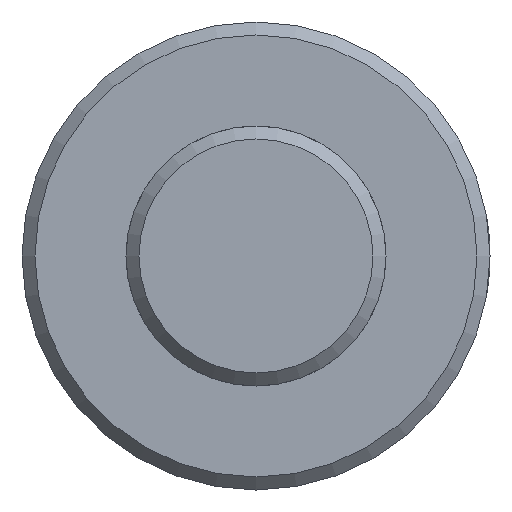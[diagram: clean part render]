
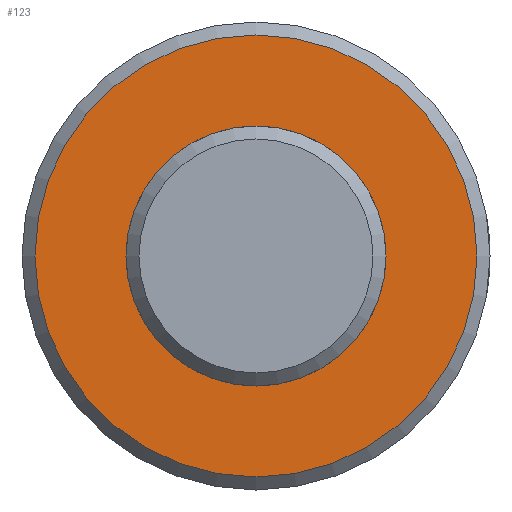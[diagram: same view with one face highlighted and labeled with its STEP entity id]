
A CAD part, left-side view. The second image highlights one B-rep face of the part: STEP entity #123.
In plain terms, the highlighted planar face has unit normal (-1, 0, 0).
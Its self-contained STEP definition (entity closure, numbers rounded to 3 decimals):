
#114=PLANE('',#371);
#123=ADVANCED_FACE('',(#185,#186),#114,.T.);
#185=FACE_BOUND('',#206,.T.);
#186=FACE_BOUND('',#207,.T.);
#206=EDGE_LOOP('',(#245));
#207=EDGE_LOOP('',(#246));
#245=ORIENTED_EDGE('',*,*,#335,.T.);
#246=ORIENTED_EDGE('',*,*,#333,.T.);
#307=VERTEX_POINT('',#636);
#309=VERTEX_POINT('',#641);
#333=EDGE_CURVE('',#307,#307,#353,.T.);
#335=EDGE_CURVE('',#309,#309,#355,.T.);
#353=CIRCLE('',#367,10.);
#355=CIRCLE('',#370,17.);
#367=AXIS2_PLACEMENT_3D('',#635,#402,#403);
#370=AXIS2_PLACEMENT_3D('',#640,#408,#409);
#371=AXIS2_PLACEMENT_3D('',#642,#410,#411);
#402=DIRECTION('',(1.,0.,0.));
#403=DIRECTION('',(0.,0.707,-0.707));
#408=DIRECTION('',(-1.,0.,0.));
#409=DIRECTION('',(0.,0.,1.));
#410=DIRECTION('',(-1.,0.,0.));
#411=DIRECTION('',(0.,0.,1.));
#635=CARTESIAN_POINT('',(-49.75,0.,0.));
#636=CARTESIAN_POINT('',(-49.75,7.072,-7.07));
#640=CARTESIAN_POINT('',(-49.75,0.,0.));
#641=CARTESIAN_POINT('',(-49.75,0.,17.));
#642=CARTESIAN_POINT('',(-49.75,0.,0.));
